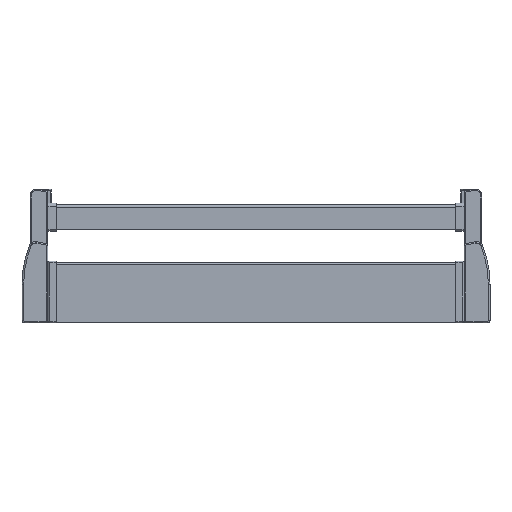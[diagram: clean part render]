
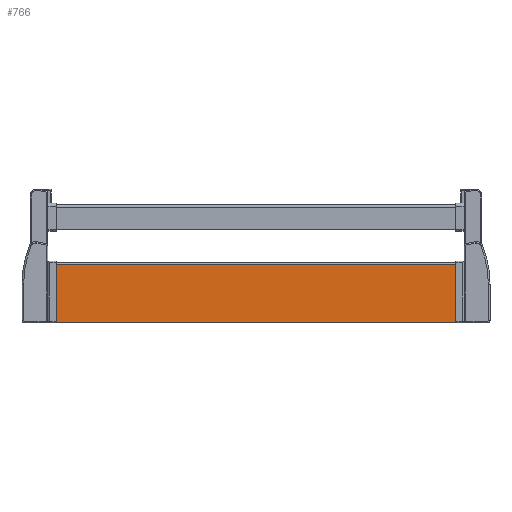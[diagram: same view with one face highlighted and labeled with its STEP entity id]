
A CAD part, top view. The second image highlights one B-rep face of the part: STEP entity #766.
In plain terms, the highlighted planar face has unit normal (0, 0, 1).
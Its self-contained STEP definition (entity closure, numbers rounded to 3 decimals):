
#697 = ORIENTED_EDGE ( 'NONE', *, *, #713, .T. ) ;
#713 = EDGE_CURVE ( 'NONE', #3879, #715, #2502, .T. ) ;
#715 = VERTEX_POINT ( 'NONE', #2498 ) ;
#717 = ORIENTED_EDGE ( 'NONE', *, *, #720, .F. ) ;
#720 = EDGE_CURVE ( 'NONE', #760, #715, #2553, .T. ) ;
#759 = EDGE_CURVE ( 'NONE', #3863, #760, #2616, .T. ) ;
#760 = VERTEX_POINT ( 'NONE', #2612 ) ;
#766 = ADVANCED_FACE ( 'NONE', ( #2595 ), #2594, .F. ) ;
#768 = EDGE_LOOP ( 'NONE', ( #771, #773, #697, #717 ) ) ;
#771 = ORIENTED_EDGE ( 'NONE', *, *, #759, .F. ) ;
#773 = ORIENTED_EDGE ( 'NONE', *, *, #3875, .T. ) ;
#2498 = CARTESIAN_POINT ( 'NONE',  ( -238.8, -23., 1.4 ) ) ;
#2499 = DIRECTION ( 'NONE',  ( -1., 0., 0. ) ) ;
#2500 = VECTOR ( 'NONE', #2499, 1000. ) ;
#2501 = CARTESIAN_POINT ( 'NONE',  ( 312.556, -23., 1.4 ) ) ;
#2502 = LINE ( 'NONE', #2501, #2500 ) ;
#2550 = DIRECTION ( 'NONE',  ( 0., 1., 0. ) ) ;
#2551 = VECTOR ( 'NONE', #2550, 1000. ) ;
#2552 = CARTESIAN_POINT ( 'NONE',  ( -238.8, -92.5, 1.4 ) ) ;
#2553 = LINE ( 'NONE', #2552, #2551 ) ;
#2589 = DIRECTION ( 'NONE',  ( 0., 1., 0. ) ) ;
#2590 = DIRECTION ( 'NONE',  ( 0., 0., -1. ) ) ;
#2591 = CARTESIAN_POINT ( 'NONE',  ( 312.556, -92.5, 1.4 ) ) ;
#2593 = AXIS2_PLACEMENT_3D ( 'NONE', #2591, #2590, #2589 ) ;
#2594 = PLANE ( 'NONE',  #2593 ) ;
#2595 = FACE_OUTER_BOUND ( 'NONE', #768, .T. ) ;
#2612 = CARTESIAN_POINT ( 'NONE',  ( -238.8, -92.5, 1.4 ) ) ;
#2613 = DIRECTION ( 'NONE',  ( -1., 0., 0. ) ) ;
#2614 = VECTOR ( 'NONE', #2613, 1000. ) ;
#2615 = CARTESIAN_POINT ( 'NONE',  ( 312.556, -92.5, 1.4 ) ) ;
#2616 = LINE ( 'NONE', #2615, #2614 ) ;
#3490 = CARTESIAN_POINT ( 'NONE',  ( 238.8, -92.5, 1.4 ) ) ;
#3527 = CARTESIAN_POINT ( 'NONE',  ( 238.8, -23., 1.4 ) ) ;
#3532 = DIRECTION ( 'NONE',  ( 0., 1., 0. ) ) ;
#3533 = VECTOR ( 'NONE', #3532, 1000. ) ;
#3534 = CARTESIAN_POINT ( 'NONE',  ( 238.8, -92.5, 1.4 ) ) ;
#3535 = LINE ( 'NONE', #3534, #3533 ) ;
#3863 = VERTEX_POINT ( 'NONE', #3490 ) ;
#3875 = EDGE_CURVE ( 'NONE', #3863, #3879, #3535, .T. ) ;
#3879 = VERTEX_POINT ( 'NONE', #3527 ) ;
